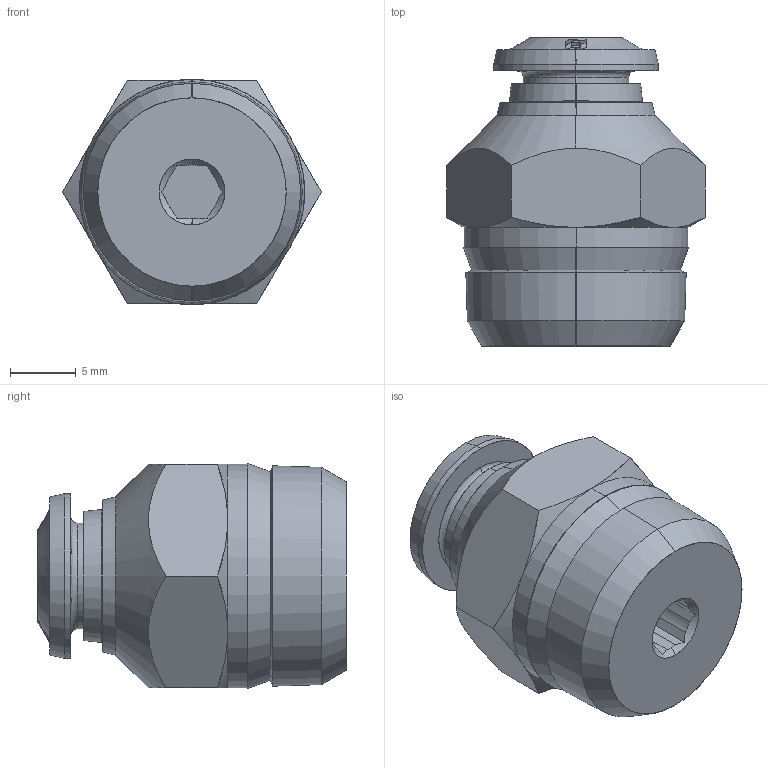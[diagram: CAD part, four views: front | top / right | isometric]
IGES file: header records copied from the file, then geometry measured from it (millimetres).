
Start section: SolidWorks IGES file using analytic representation for surfaces
Global section: file name: K:\Disegni Esecutivi\Serie 55000\ASSIEMI_55000\55000\ASSIEMI_PIENI_55000\5500000014.IGS; native system: SolidWorks 2007; preprocessor: SolidWorks 2007; author: cad02; date: 071117.091442; units: millimetre
Bounding box: 19.63 x 23.4 x 17.1 mm (x, y, z)
Surface area: 2028.3 mm2 (no closed solid volume)
Topology: 0 solids, 0 shells, 153 faces, 1862 edges, 1862 vertices
Faces by surface type: bspline 81, revolution 72
